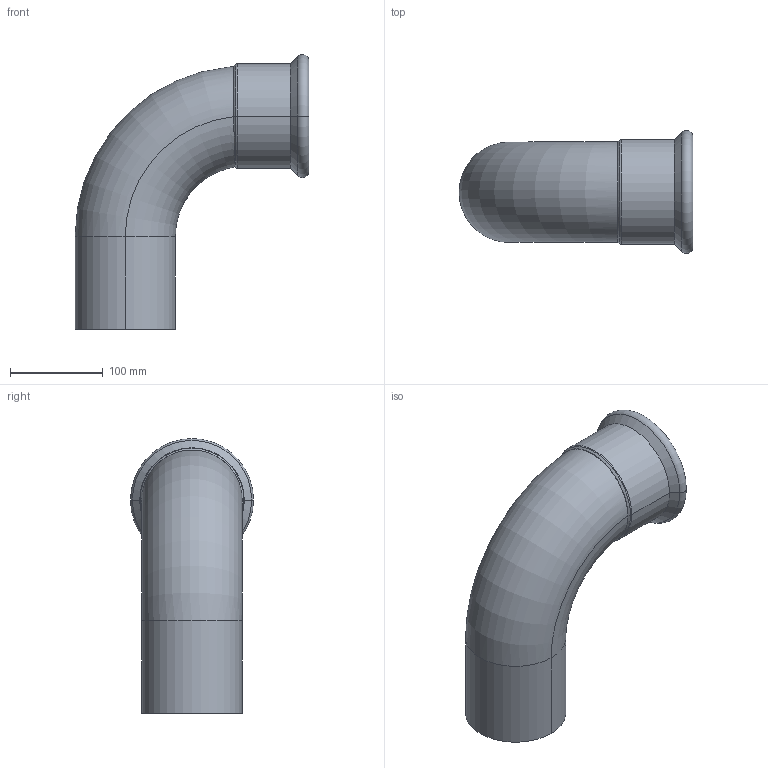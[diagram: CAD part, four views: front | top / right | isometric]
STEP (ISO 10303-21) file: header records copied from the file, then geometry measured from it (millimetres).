
FILE_DESCRIPTION(('CoCreate Modeling STEP Export'),'2;1');
FILE_NAME('C1411 108x108.stp','2014-11-11T16:38:48',(''),(''),'CoCreate Modeling STEP processor for AP214 (Solid Model)','CoCreate Modeling 17.00A 17-Jun-2010 (C) Parametric Technology GmbH','');
FILE_SCHEMA(('AUTOMOTIVE_DESIGN { 1 0 10303 214 1 1 1 1 }'));
Length unit declared in the file: millimetre
Products named in the file (2): C1411_108x108
Assembly tree (1 placements, depth 2):
  C1411_108x108
    C1411_108x108
Bounding box: 252 x 132.58 x 296.29 mm (x, y, z)
Volume: 309966.1 mm3; surface area: 263844.1 mm2
Topology: 1 solids, 1 shells, 39 faces, 92 edges, 56 vertices
Faces by surface type: cylinder 13, torus 13, plane 9, cone 4
Entity records: 3855 total; most frequent: CARTESIAN_POINT 3051, ORIENTED_EDGE 184, DIRECTION 124, EDGE_CURVE 92, VERTEX_POINT 56, AXIS2_PLACEMENT_3D 54, EDGE_LOOP 42, FACE_OUTER_BOUND 39
